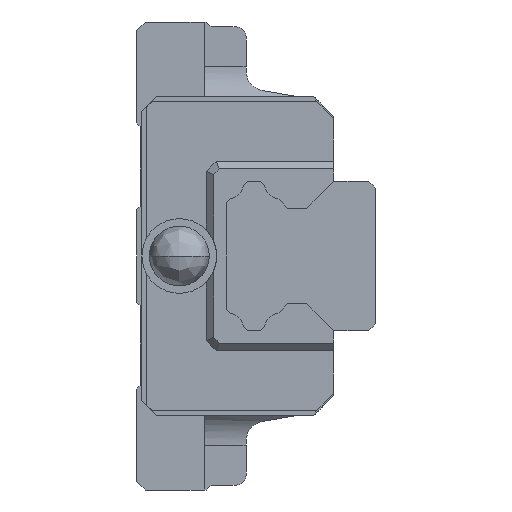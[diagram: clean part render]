
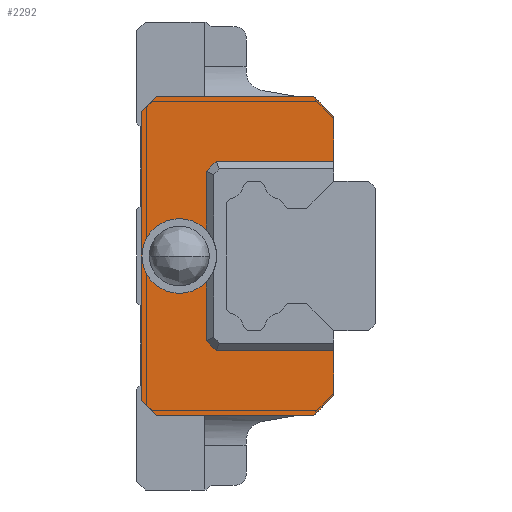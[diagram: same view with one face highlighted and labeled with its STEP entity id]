
A CAD part, left-side view. The second image highlights one B-rep face of the part: STEP entity #2292.
In plain terms, the highlighted planar face has unit normal (-1, 0, 0).
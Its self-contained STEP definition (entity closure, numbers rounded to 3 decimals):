
#85 = VECTOR ( 'NONE', #2586, 1000. ) ;
#179 = LINE ( 'NONE', #1295, #3371 ) ;
#259 = DIRECTION ( 'NONE',  ( 0., 1., 0. ) ) ;
#358 = VECTOR ( 'NONE', #6678, 1000. ) ;
#367 = PLANE ( 'NONE',  #524 ) ;
#441 = CARTESIAN_POINT ( 'NONE',  ( 33.7, 22., 16. ) ) ;
#462 = VERTEX_POINT ( 'NONE', #1516 ) ;
#524 = AXIS2_PLACEMENT_3D ( 'NONE', #7164, #2068, #4309 ) ;
#554 = VERTEX_POINT ( 'NONE', #441 ) ;
#589 = DIRECTION ( 'NONE',  ( 0., -0.707, -0.707 ) ) ;
#615 = EDGE_CURVE ( 'NONE', #462, #554, #874, .T. ) ;
#831 = EDGE_CURVE ( 'NONE', #554, #1241, #179, .T. ) ;
#861 = ORIENTED_EDGE ( 'NONE', *, *, #3662, .F. ) ;
#874 = LINE ( 'NONE', #6677, #3994 ) ;
#881 = DIRECTION ( 'NONE',  ( 0., 0.707, 0.707 ) ) ;
#934 = EDGE_CURVE ( 'NONE', #5893, #7210, #2305, .T. ) ;
#982 = DIRECTION ( 'NONE',  ( 0., 0., -1. ) ) ;
#995 = DIRECTION ( 'NONE',  ( 0., -0.707, 0.707 ) ) ;
#1000 = ORIENTED_EDGE ( 'NONE', *, *, #1612, .F. ) ;
#1054 = CARTESIAN_POINT ( 'NONE',  ( 33.7, 6.2, 16. ) ) ;
#1157 = LINE ( 'NONE', #1720, #5725 ) ;
#1159 = DIRECTION ( 'NONE',  ( 0., 0., -1. ) ) ;
#1192 = CARTESIAN_POINT ( 'NONE',  ( 33.7, 5.2, -9.5 ) ) ;
#1232 = CARTESIAN_POINT ( 'NONE',  ( 33.7, 4.2, 0. ) ) ;
#1241 = VERTEX_POINT ( 'NONE', #1054 ) ;
#1295 = CARTESIAN_POINT ( 'NONE',  ( 33.7, 4.7, 16. ) ) ;
#1305 = FACE_BOUND ( 'NONE', #2447, .T. ) ;
#1312 = VECTOR ( 'NONE', #589, 1000. ) ;
#1342 = CARTESIAN_POINT ( 'NONE',  ( 33.7, 17., -8.5 ) ) ;
#1351 = ORIENTED_EDGE ( 'NONE', *, *, #6484, .F. ) ;
#1370 = CARTESIAN_POINT ( 'NONE',  ( 33.7, 17., 2.604 ) ) ;
#1402 = EDGE_CURVE ( 'NONE', #5159, #3516, #6391, .T. ) ;
#1430 = CARTESIAN_POINT ( 'NONE',  ( 33.7, 16., 9.5 ) ) ;
#1447 = ORIENTED_EDGE ( 'NONE', *, *, #5102, .F. ) ;
#1480 = FACE_OUTER_BOUND ( 'NONE', #6596, .T. ) ;
#1516 = CARTESIAN_POINT ( 'NONE',  ( 33.7, 23.5, 14.5 ) ) ;
#1612 = EDGE_CURVE ( 'NONE', #1685, #5893, #4698, .T. ) ;
#1620 = DIRECTION ( 'NONE',  ( -1., 0., 0. ) ) ;
#1685 = VERTEX_POINT ( 'NONE', #6060 ) ;
#1720 = CARTESIAN_POINT ( 'NONE',  ( 33.7, 23.5, 0. ) ) ;
#1723 = VERTEX_POINT ( 'NONE', #4920 ) ;
#1863 = LINE ( 'NONE', #4373, #358 ) ;
#2034 = CARTESIAN_POINT ( 'NONE',  ( 33.7, 23.5, -14.5 ) ) ;
#2068 = DIRECTION ( 'NONE',  ( 1., 0., 0. ) ) ;
#2072 = CARTESIAN_POINT ( 'NONE',  ( 33.7, 4.2, 14. ) ) ;
#2125 = CARTESIAN_POINT ( 'NONE',  ( 33.7, 17., -8.5 ) ) ;
#2142 = VECTOR ( 'NONE', #259, 1000. ) ;
#2168 = VECTOR ( 'NONE', #7376, 1000. ) ;
#2197 = VERTEX_POINT ( 'NONE', #4750 ) ;
#2292 = ADVANCED_FACE ( 'NONE', ( #1480, #1305 ), #367, .F. ) ;
#2305 = LINE ( 'NONE', #1342, #6127 ) ;
#2378 = EDGE_CURVE ( 'NONE', #2197, #4686, #4608, .T. ) ;
#2417 = DIRECTION ( 'NONE',  ( -1., 0., 0. ) ) ;
#2447 = EDGE_LOOP ( 'NONE', ( #5385, #3393 ) ) ;
#2461 = EDGE_CURVE ( 'NONE', #4647, #6471, #6114, .T. ) ;
#2552 = LINE ( 'NONE', #6209, #1312 ) ;
#2586 = DIRECTION ( 'NONE',  ( 0., 0.707, -0.707 ) ) ;
#2617 = VERTEX_POINT ( 'NONE', #4250 ) ;
#2661 = LINE ( 'NONE', #5450, #6594 ) ;
#2764 = ORIENTED_EDGE ( 'NONE', *, *, #5683, .F. ) ;
#2794 = DIRECTION ( 'NONE',  ( 0., 0., -1. ) ) ;
#2838 = DIRECTION ( 'NONE',  ( 0., -1., 0. ) ) ;
#2958 = VECTOR ( 'NONE', #881, 1000. ) ;
#3004 = DIRECTION ( 'NONE',  ( 0., 0., -1. ) ) ;
#3086 = VECTOR ( 'NONE', #5075, 1000. ) ;
#3218 = VERTEX_POINT ( 'NONE', #5431 ) ;
#3282 = ORIENTED_EDGE ( 'NONE', *, *, #831, .F. ) ;
#3327 = VERTEX_POINT ( 'NONE', #6064 ) ;
#3371 = VECTOR ( 'NONE', #4714, 1000. ) ;
#3393 = ORIENTED_EDGE ( 'NONE', *, *, #2378, .F. ) ;
#3472 = AXIS2_PLACEMENT_3D ( 'NONE', #3910, #1620, #2794 ) ;
#3495 = LINE ( 'NONE', #3581, #2958 ) ;
#3516 = VERTEX_POINT ( 'NONE', #5258 ) ;
#3576 = DIRECTION ( 'NONE',  ( 0., -0.707, -0.707 ) ) ;
#3581 = CARTESIAN_POINT ( 'NONE',  ( 33.7, 22., -16. ) ) ;
#3662 = EDGE_CURVE ( 'NONE', #2617, #1723, #6901, .T. ) ;
#3715 = CARTESIAN_POINT ( 'NONE',  ( 33.7, 16., 9.5 ) ) ;
#3739 = CARTESIAN_POINT ( 'NONE',  ( 33.7, 19.7, 0. ) ) ;
#3910 = CARTESIAN_POINT ( 'NONE',  ( 33.7, 19.7, 0. ) ) ;
#3987 = CARTESIAN_POINT ( 'NONE',  ( 33.7, 19.7, 0. ) ) ;
#3994 = VECTOR ( 'NONE', #995, 1000. ) ;
#4117 = CIRCLE ( 'NONE', #4278, 2. ) ;
#4250 = CARTESIAN_POINT ( 'NONE',  ( 33.7, 17., -8.5 ) ) ;
#4278 = AXIS2_PLACEMENT_3D ( 'NONE', #3987, #2417, #3004 ) ;
#4309 = DIRECTION ( 'NONE',  ( 0., 0., -1. ) ) ;
#4343 = LINE ( 'NONE', #1192, #5720 ) ;
#4353 = EDGE_CURVE ( 'NONE', #4686, #2197, #4117, .T. ) ;
#4373 = CARTESIAN_POINT ( 'NONE',  ( 33.7, 4.7, -16. ) ) ;
#4565 = CARTESIAN_POINT ( 'NONE',  ( 33.7, 17., 8.5 ) ) ;
#4583 = VECTOR ( 'NONE', #3576, 1000. ) ;
#4608 = CIRCLE ( 'NONE', #3472, 2. ) ;
#4647 = VERTEX_POINT ( 'NONE', #5425 ) ;
#4674 = EDGE_CURVE ( 'NONE', #3327, #7302, #3495, .T. ) ;
#4686 = VERTEX_POINT ( 'NONE', #6059 ) ;
#4698 = LINE ( 'NONE', #3715, #85 ) ;
#4714 = DIRECTION ( 'NONE',  ( 0., -1., 0. ) ) ;
#4750 = CARTESIAN_POINT ( 'NONE',  ( 33.7, 19.7, 2. ) ) ;
#4794 = CARTESIAN_POINT ( 'NONE',  ( 33.7, 6.2, -16. ) ) ;
#4803 = ORIENTED_EDGE ( 'NONE', *, *, #6917, .F. ) ;
#4920 = CARTESIAN_POINT ( 'NONE',  ( 33.7, 16., -9.5 ) ) ;
#5047 = CARTESIAN_POINT ( 'NONE',  ( 33.7, 4.2, 0. ) ) ;
#5075 = DIRECTION ( 'NONE',  ( 0., 0., -1. ) ) ;
#5102 = EDGE_CURVE ( 'NONE', #3516, #1685, #7061, .T. ) ;
#5159 = VERTEX_POINT ( 'NONE', #2072 ) ;
#5221 = CIRCLE ( 'NONE', #6813, 3.751 ) ;
#5258 = CARTESIAN_POINT ( 'NONE',  ( 33.7, 4.2, 9.5 ) ) ;
#5294 = ORIENTED_EDGE ( 'NONE', *, *, #4674, .F. ) ;
#5341 = EDGE_CURVE ( 'NONE', #7302, #462, #1157, .T. ) ;
#5385 = ORIENTED_EDGE ( 'NONE', *, *, #4353, .F. ) ;
#5415 = VECTOR ( 'NONE', #1159, 1000. ) ;
#5425 = CARTESIAN_POINT ( 'NONE',  ( 33.7, 4.2, -9.5 ) ) ;
#5431 = CARTESIAN_POINT ( 'NONE',  ( 33.7, 17., -2.604 ) ) ;
#5437 = DIRECTION ( 'NONE',  ( 0., 0., -1. ) ) ;
#5450 = CARTESIAN_POINT ( 'NONE',  ( 33.7, 5.2, -15. ) ) ;
#5553 = ORIENTED_EDGE ( 'NONE', *, *, #5891, .F. ) ;
#5632 = VERTEX_POINT ( 'NONE', #4794 ) ;
#5683 = EDGE_CURVE ( 'NONE', #6471, #5632, #2661, .T. ) ;
#5720 = VECTOR ( 'NONE', #2838, 1000. ) ;
#5725 = VECTOR ( 'NONE', #6794, 1000. ) ;
#5830 = ORIENTED_EDGE ( 'NONE', *, *, #934, .F. ) ;
#5891 = EDGE_CURVE ( 'NONE', #5632, #3327, #1863, .T. ) ;
#5893 = VERTEX_POINT ( 'NONE', #4565 ) ;
#5962 = EDGE_CURVE ( 'NONE', #1723, #4647, #4343, .T. ) ;
#6014 = DIRECTION ( 'NONE',  ( 0., 0.707, -0.707 ) ) ;
#6059 = CARTESIAN_POINT ( 'NONE',  ( 33.7, 19.7, -2. ) ) ;
#6060 = CARTESIAN_POINT ( 'NONE',  ( 33.7, 16., 9.5 ) ) ;
#6064 = CARTESIAN_POINT ( 'NONE',  ( 33.7, 22., -16. ) ) ;
#6114 = LINE ( 'NONE', #5047, #3086 ) ;
#6127 = VECTOR ( 'NONE', #5437, 1000. ) ;
#6209 = CARTESIAN_POINT ( 'NONE',  ( 33.7, 6.2, 16. ) ) ;
#6324 = ORIENTED_EDGE ( 'NONE', *, *, #6431, .T. ) ;
#6391 = LINE ( 'NONE', #1232, #5415 ) ;
#6431 = EDGE_CURVE ( 'NONE', #3218, #7210, #5221, .T. ) ;
#6471 = VERTEX_POINT ( 'NONE', #6636 ) ;
#6484 = EDGE_CURVE ( 'NONE', #3218, #2617, #6620, .T. ) ;
#6594 = VECTOR ( 'NONE', #6014, 1000. ) ;
#6596 = EDGE_LOOP ( 'NONE', ( #1000, #1447, #6882, #4803, #3282, #6675, #6686, #5294, #5553, #2764, #6649, #6796, #861, #1351, #6324, #5830 ) ) ;
#6620 = LINE ( 'NONE', #2125, #2168 ) ;
#6636 = CARTESIAN_POINT ( 'NONE',  ( 33.7, 4.2, -14. ) ) ;
#6649 = ORIENTED_EDGE ( 'NONE', *, *, #2461, .F. ) ;
#6666 = DIRECTION ( 'NONE',  ( -1., 0., 0. ) ) ;
#6675 = ORIENTED_EDGE ( 'NONE', *, *, #615, .F. ) ;
#6677 = CARTESIAN_POINT ( 'NONE',  ( 33.7, 23.5, 14.5 ) ) ;
#6678 = DIRECTION ( 'NONE',  ( 0., 1., 0. ) ) ;
#6686 = ORIENTED_EDGE ( 'NONE', *, *, #5341, .F. ) ;
#6794 = DIRECTION ( 'NONE',  ( 0., 0., 1. ) ) ;
#6796 = ORIENTED_EDGE ( 'NONE', *, *, #5962, .F. ) ;
#6813 = AXIS2_PLACEMENT_3D ( 'NONE', #3739, #6666, #982 ) ;
#6882 = ORIENTED_EDGE ( 'NONE', *, *, #1402, .F. ) ;
#6901 = LINE ( 'NONE', #6995, #4583 ) ;
#6917 = EDGE_CURVE ( 'NONE', #1241, #5159, #2552, .T. ) ;
#6995 = CARTESIAN_POINT ( 'NONE',  ( 33.7, 17., -8.5 ) ) ;
#7061 = LINE ( 'NONE', #1430, #2142 ) ;
#7164 = CARTESIAN_POINT ( 'NONE',  ( 33.7, 4.7, 0. ) ) ;
#7210 = VERTEX_POINT ( 'NONE', #1370 ) ;
#7302 = VERTEX_POINT ( 'NONE', #2034 ) ;
#7376 = DIRECTION ( 'NONE',  ( 0., 0., -1. ) ) ;
